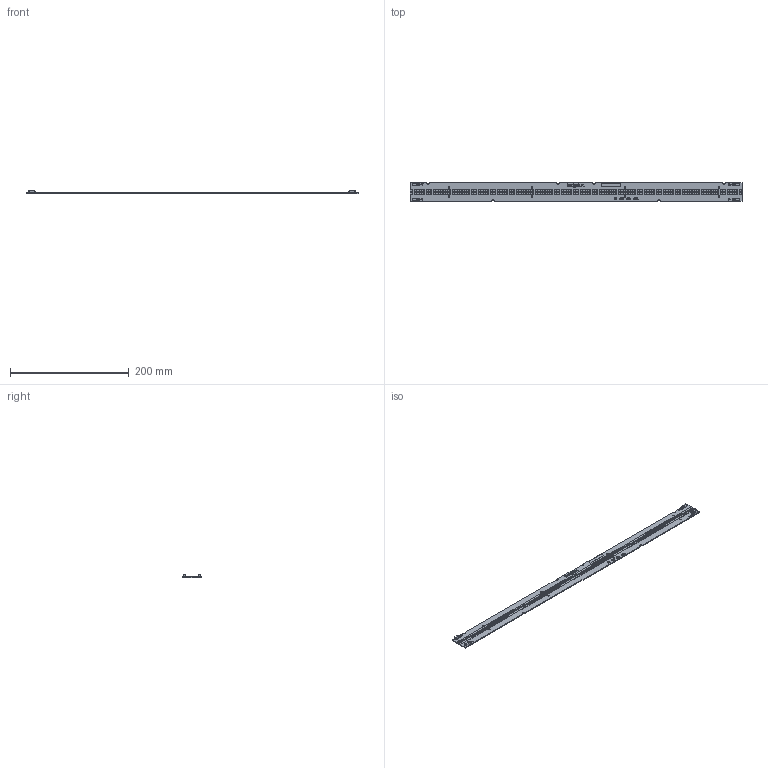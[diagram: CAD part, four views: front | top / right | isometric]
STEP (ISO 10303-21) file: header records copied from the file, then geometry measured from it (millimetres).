
FILE_DESCRIPTION (( 'STEP AP214' ), '1' );
FILE_NAME ('BXEB-TL-L0560Z ver. A (15-000716 revB).STEP', '2020-11-03T03:58:26', ( '' ), ( '' ), 'SwSTEP 2.0', 'SolidWorks 2020', '' );
FILE_SCHEMA (( 'AUTOMOTIVE_DESIGN' ));
Length unit declared in the file: millimetre
Products named in the file (1): BXEB-TL-L0560Z ver. A (15-000716 revB)
Bounding box: 560 x 31 x 5.55 mm (x, y, z)
Volume: 30288.2 mm3; surface area: 45515.2 mm2
Topology: 285 solids, 285 shells, 6797 faces, 17368 edges, 11620 vertices
Faces by surface type: plane 5934, bspline 607, cylinder 248, cone 8
Full cylindrical faces by diameter (mm): 0.597 x1, 1.019 x1, 1.102 x8, 2 x4
Entity records: 303926 total; most frequent: CARTESIAN_POINT 67315, ORIENTED_EDGE 34676, DIRECTION 27726, EDGE_CURVE 17338, LINE 15160, VECTOR 15160, VERTEX_POINT 11612, EDGE_LOOP 7298
